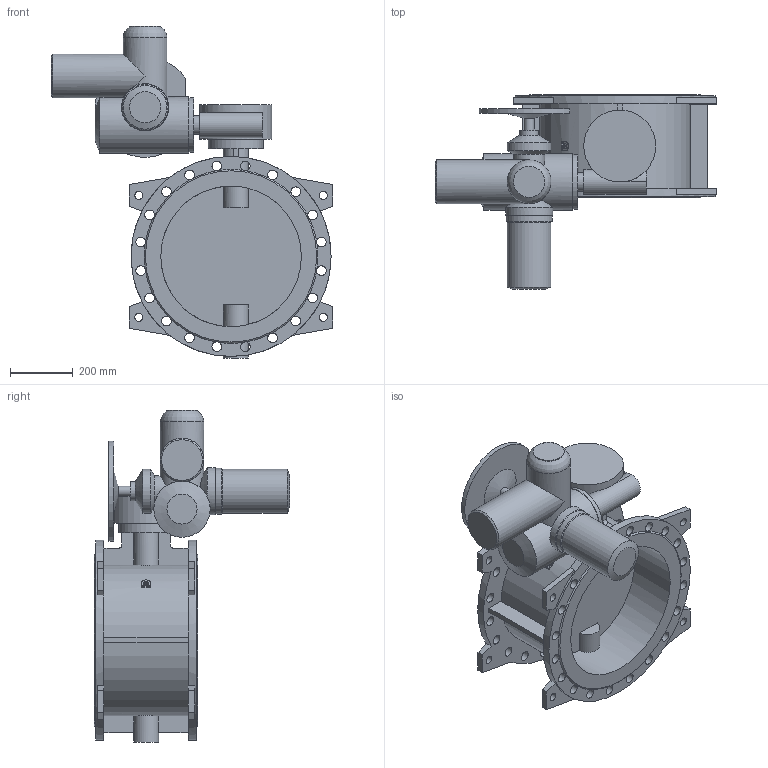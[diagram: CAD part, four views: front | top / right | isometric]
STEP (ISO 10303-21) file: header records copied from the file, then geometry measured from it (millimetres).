
FILE_DESCRIPTION(('STEP AP203'), '1');
FILE_NAME('Çàòâîð 023F.Z DN450 PN16 + ðåäóêòîð + ÌÒ903.À30', '', ('UNSPECIFIED'), ('UNSPECIFIED'), 'ASCON STEP Converter 1.6', 'ASCON Math Kernel', '');
FILE_SCHEMA(('CONFIG_CONTROL_DESIGN'));
Length unit declared in the file: millimetre
Bounding box: 900 x 624 x 1062 mm (x, y, z)
Volume: 52283084.3 mm3; surface area: 3122823.1 mm2
Topology: 1 solids, 1 shells, 224 faces, 676 edges, 446 vertices
Faces by surface type: cylinder 106, plane 106, cone 11, torus 1
Full cylindrical faces by diameter (mm): 14 x8, 18 x8, 26 x8, 31 x40, 32 x1, 60 x2, 80 x2, 100 x1, 140 x4, 147 x1, 151 x1, 175 x2, 180 x1, 230 x1, 450 x2, 640 x2
Entity records: 13446 total; most frequent: CARTESIAN_POINT 5634, DIRECTION 1255, ORIENTED_EDGE 1156, EDGE_CURVE 578, AXIS2_PLACEMENT_3D 532, VERTEX_POINT 445, EDGE_LOOP 407, CIRCLE 308
